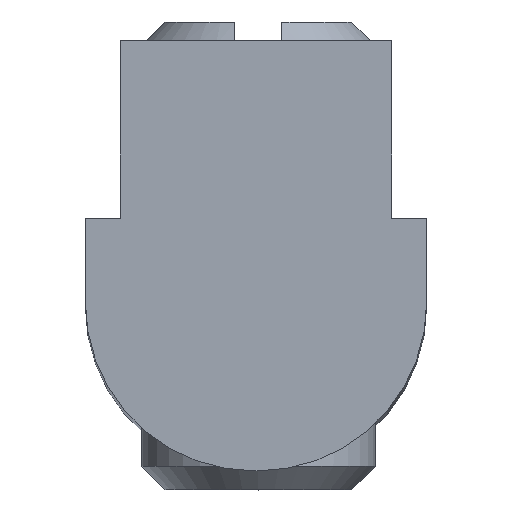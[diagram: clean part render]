
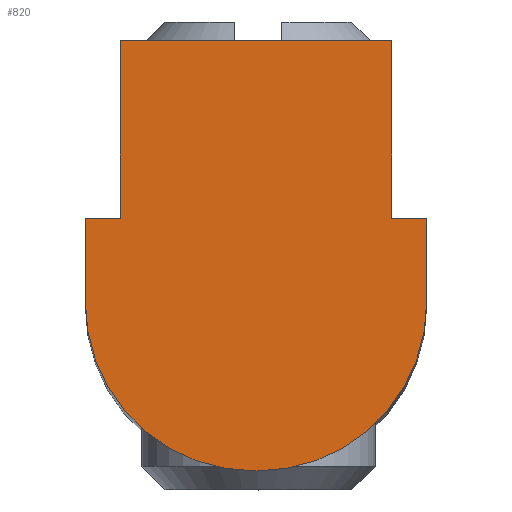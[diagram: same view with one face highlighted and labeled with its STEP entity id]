
A CAD part, top view. The second image highlights one B-rep face of the part: STEP entity #820.
In plain terms, the highlighted planar face has unit normal (0, 0, 1).
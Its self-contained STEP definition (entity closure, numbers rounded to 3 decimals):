
#10 = CARTESIAN_POINT ( 'NONE',  ( -1.45, -5.8, 23. ) ) ;
#37 = LINE ( 'NONE', #764, #748 ) ;
#39 = ORIENTED_EDGE ( 'NONE', *, *, #640, .T. ) ;
#46 = CARTESIAN_POINT ( 'NONE',  ( 1.825, -6.7, 23. ) ) ;
#68 = CIRCLE ( 'NONE', #332, 1.8 ) ;
#83 = DIRECTION ( 'NONE',  ( 0., -1., 0. ) ) ;
#84 = VERTEX_POINT ( 'NONE', #855 ) ;
#88 = ORIENTED_EDGE ( 'NONE', *, *, #614, .T. ) ;
#131 = VERTEX_POINT ( 'NONE', #807 ) ;
#150 = CARTESIAN_POINT ( 'NONE',  ( 1.825, -5.8, 23. ) ) ;
#175 = CARTESIAN_POINT ( 'NONE',  ( 1.825, -6.7, 23. ) ) ;
#199 = ORIENTED_EDGE ( 'NONE', *, *, #796, .T. ) ;
#203 = AXIS2_PLACEMENT_3D ( 'NONE', #760, #392, #324 ) ;
#230 = EDGE_CURVE ( 'NONE', #699, #862, #586, .T. ) ;
#243 = LINE ( 'NONE', #175, #416 ) ;
#245 = EDGE_CURVE ( 'NONE', #131, #601, #756, .T. ) ;
#256 = DIRECTION ( 'NONE',  ( -1., 0., 0. ) ) ;
#261 = VECTOR ( 'NONE', #256, 1000. ) ;
#262 = CARTESIAN_POINT ( 'NONE',  ( -1.45, -3.9, 23. ) ) ;
#287 = VECTOR ( 'NONE', #83, 1000. ) ;
#304 = VERTEX_POINT ( 'NONE', #762 ) ;
#319 = DIRECTION ( 'NONE',  ( 1., 0., 0. ) ) ;
#320 = DIRECTION ( 'NONE',  ( 0., -1., 0. ) ) ;
#324 = DIRECTION ( 'NONE',  ( 1., 0., 0. ) ) ;
#327 = EDGE_CURVE ( 'NONE', #601, #699, #550, .T. ) ;
#332 = AXIS2_PLACEMENT_3D ( 'NONE', #472, #667, #823 ) ;
#334 = CARTESIAN_POINT ( 'NONE',  ( -0.025, -8.5, 23. ) ) ;
#338 = EDGE_CURVE ( 'NONE', #862, #84, #682, .T. ) ;
#366 = ORIENTED_EDGE ( 'NONE', *, *, #703, .T. ) ;
#374 = DIRECTION ( 'NONE',  ( 0., 0., 1. ) ) ;
#384 = CARTESIAN_POINT ( 'NONE',  ( -1.45, -5.8, 23. ) ) ;
#392 = DIRECTION ( 'NONE',  ( 0., 0., 1. ) ) ;
#393 = CIRCLE ( 'NONE', #203, 1.8 ) ;
#402 = VERTEX_POINT ( 'NONE', #46 ) ;
#416 = VECTOR ( 'NONE', #676, 1000. ) ;
#454 = AXIS2_PLACEMENT_3D ( 'NONE', #818, #374, #593 ) ;
#470 = DIRECTION ( 'NONE',  ( 0., 1., 0. ) ) ;
#472 = CARTESIAN_POINT ( 'NONE',  ( -0.025, -6.7, 23. ) ) ;
#491 = ORIENTED_EDGE ( 'NONE', *, *, #230, .T. ) ;
#550 = LINE ( 'NONE', #262, #261 ) ;
#555 = VECTOR ( 'NONE', #319, 1000. ) ;
#566 = CARTESIAN_POINT ( 'NONE',  ( -1.825, -6.7, 23. ) ) ;
#584 = VECTOR ( 'NONE', #678, 1000. ) ;
#586 = LINE ( 'NONE', #732, #287 ) ;
#587 = VECTOR ( 'NONE', #875, 1000. ) ;
#589 = CARTESIAN_POINT ( 'NONE',  ( -1.45, -3.9, 23. ) ) ;
#593 = DIRECTION ( 'NONE',  ( 1., 0., 0. ) ) ;
#601 = VERTEX_POINT ( 'NONE', #852 ) ;
#614 = EDGE_CURVE ( 'NONE', #84, #908, #37, .T. ) ;
#619 = ORIENTED_EDGE ( 'NONE', *, *, #850, .T. ) ;
#640 = EDGE_CURVE ( 'NONE', #857, #402, #393, .T. ) ;
#656 = LINE ( 'NONE', #150, #587 ) ;
#667 = DIRECTION ( 'NONE',  ( 0., 0., 1. ) ) ;
#676 = DIRECTION ( 'NONE',  ( 0., 1., 0. ) ) ;
#678 = DIRECTION ( 'NONE',  ( -1., 0., 0. ) ) ;
#682 = LINE ( 'NONE', #384, #584 ) ;
#699 = VERTEX_POINT ( 'NONE', #589 ) ;
#702 = LINE ( 'NONE', #334, #555 ) ;
#703 = EDGE_CURVE ( 'NONE', #917, #131, #656, .T. ) ;
#732 = CARTESIAN_POINT ( 'NONE',  ( -1.45, 0., 23. ) ) ;
#748 = VECTOR ( 'NONE', #320, 1000. ) ;
#749 = PLANE ( 'NONE',  #454 ) ;
#751 = ORIENTED_EDGE ( 'NONE', *, *, #245, .T. ) ;
#756 = LINE ( 'NONE', #905, #812 ) ;
#760 = CARTESIAN_POINT ( 'NONE',  ( 0.025, -6.7, 23. ) ) ;
#762 = CARTESIAN_POINT ( 'NONE',  ( -0.025, -8.5, 23. ) ) ;
#764 = CARTESIAN_POINT ( 'NONE',  ( -1.825, -5.8, 23. ) ) ;
#779 = ORIENTED_EDGE ( 'NONE', *, *, #907, .T. ) ;
#792 = ORIENTED_EDGE ( 'NONE', *, *, #327, .T. ) ;
#796 = EDGE_CURVE ( 'NONE', #908, #304, #68, .T. ) ;
#807 = CARTESIAN_POINT ( 'NONE',  ( 1.45, -5.8, 23. ) ) ;
#812 = VECTOR ( 'NONE', #470, 1000. ) ;
#818 = CARTESIAN_POINT ( 'NONE',  ( -0.025, -6.7, 23. ) ) ;
#820 = ADVANCED_FACE ( 'NONE', ( #882 ), #749, .T. ) ;
#823 = DIRECTION ( 'NONE',  ( 1., 0., 0. ) ) ;
#850 = EDGE_CURVE ( 'NONE', #402, #917, #243, .T. ) ;
#852 = CARTESIAN_POINT ( 'NONE',  ( 1.45, -3.9, 23. ) ) ;
#855 = CARTESIAN_POINT ( 'NONE',  ( -1.825, -5.8, 23. ) ) ;
#857 = VERTEX_POINT ( 'NONE', #896 ) ;
#862 = VERTEX_POINT ( 'NONE', #10 ) ;
#875 = DIRECTION ( 'NONE',  ( -1., 0., 0. ) ) ;
#882 = FACE_OUTER_BOUND ( 'NONE', #928, .T. ) ;
#896 = CARTESIAN_POINT ( 'NONE',  ( 0.025, -8.5, 23. ) ) ;
#905 = CARTESIAN_POINT ( 'NONE',  ( 1.45, -5.8, 23. ) ) ;
#907 = EDGE_CURVE ( 'NONE', #304, #857, #702, .T. ) ;
#908 = VERTEX_POINT ( 'NONE', #566 ) ;
#913 = CARTESIAN_POINT ( 'NONE',  ( 1.825, -5.8, 23. ) ) ;
#917 = VERTEX_POINT ( 'NONE', #913 ) ;
#920 = ORIENTED_EDGE ( 'NONE', *, *, #338, .T. ) ;
#928 = EDGE_LOOP ( 'NONE', ( #751, #792, #491, #920, #88, #199, #779, #39, #619, #366 ) ) ;
